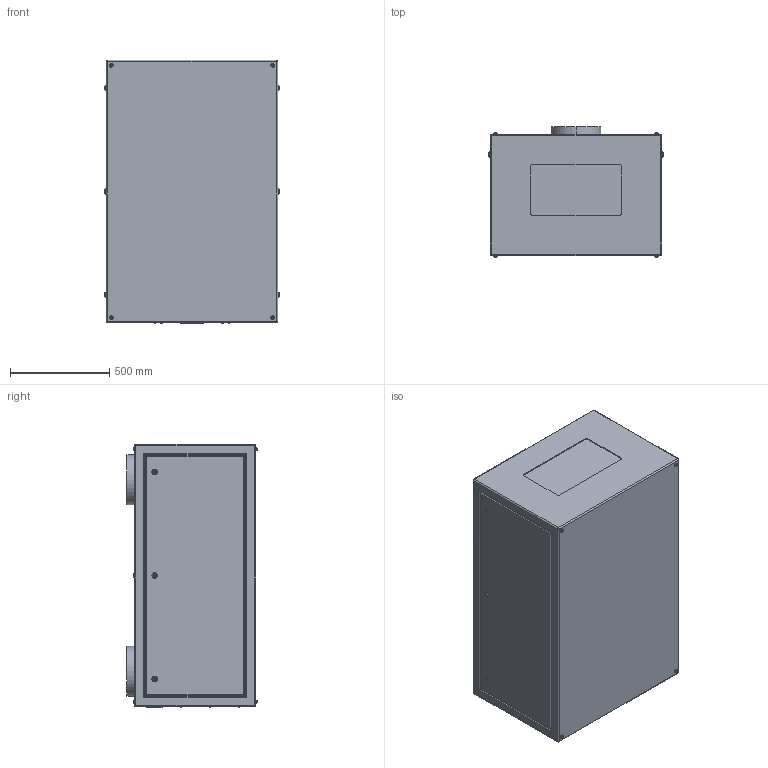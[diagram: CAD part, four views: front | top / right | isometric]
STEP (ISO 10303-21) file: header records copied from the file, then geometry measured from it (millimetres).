
FILE_DESCRIPTION (( 'STEP AP214' ), '1' );
FILE_NAME ('Tacit 56.305.L R08.STEP', '2022-09-11T22:36:19', ( '' ), ( '' ), 'SwSTEP 2.0', 'SolidWorks 2020', '' );
FILE_SCHEMA (( 'AUTOMOTIVE_DESIGN' ));
Length unit declared in the file: inch
Products named in the file (1): Tacit 56.305.L R08
Bounding box: 876.3 x 654.95 x 1325.88 mm (x, y, z)
Volume: 694055576.8 mm3; surface area: 5291166.1 mm2
Topology: 1 solids, 7 shells, 401 faces, 892 edges, 560 vertices
Faces by surface type: plane 177, cylinder 168, torus 48, sphere 8
Entity records: 15011 total; most frequent: CARTESIAN_POINT 2382, DIRECTION 1972, ORIENTED_EDGE 1768, EDGE_CURVE 884, AXIS2_PLACEMENT_3D 782, VERTEX_POINT 560, EDGE_LOOP 464, LINE 408
